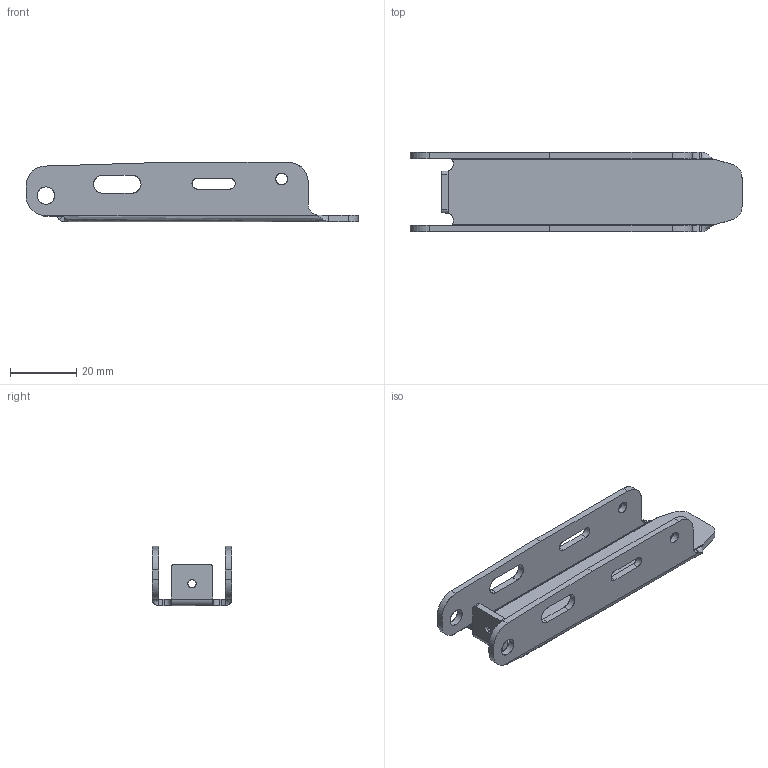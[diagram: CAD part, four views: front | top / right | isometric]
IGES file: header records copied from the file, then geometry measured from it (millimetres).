
Start section: SolidWorks IGES FILE using analytic representation for surfaces
Global section: file name: C:\Documents and Settings\lecoutey\Bureau\GR 2003\2003.010.10.IGS; native system: SolidWorks 2004 by SolidWorks Corporation; preprocessor: Version 5.3; author: lecoutey; date: 050405.093848; units: millimetre
Bounding box: 100 x 23.98 x 17.87 mm (x, y, z)
Surface area: 10000.8 mm2 (no closed solid volume)
Topology: 0 solids, 0 shells, 98 faces, 1354 edges, 1354 vertices
Faces by surface type: revolution 52, bspline 46
